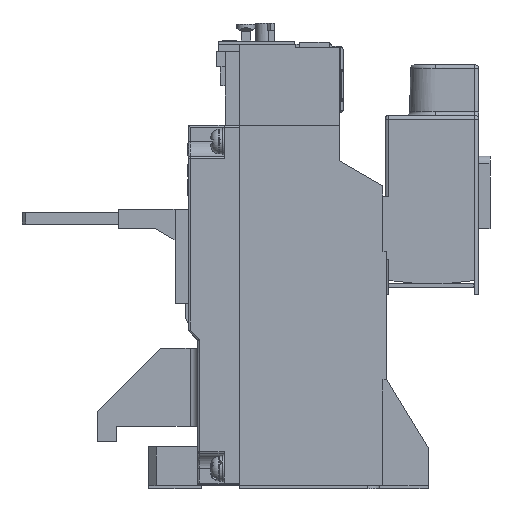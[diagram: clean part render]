
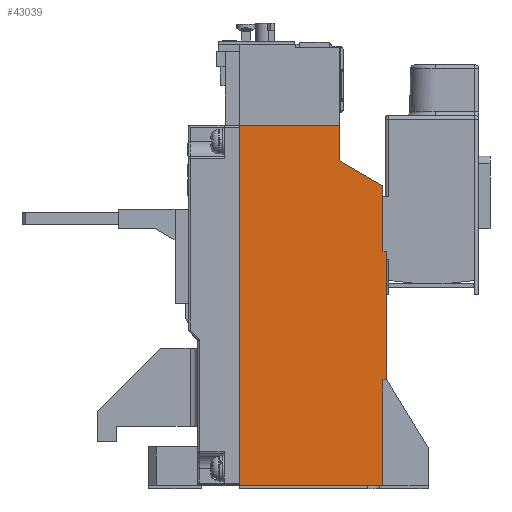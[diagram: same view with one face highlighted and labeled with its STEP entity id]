
A CAD part, left-side view. The second image highlights one B-rep face of the part: STEP entity #43039.
In plain terms, the highlighted planar face has unit normal (-1, 0, 0).
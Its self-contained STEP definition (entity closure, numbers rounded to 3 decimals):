
#33 = CARTESIAN_POINT ( 'NONE',  ( -50., 0., 95.4 ) ) ;
#349 = VERTEX_POINT ( 'NONE', #28911 ) ;
#479 = DIRECTION ( 'NONE',  ( 0., 1., 0. ) ) ;
#529 = ORIENTED_EDGE ( 'NONE', *, *, #33866, .F. ) ;
#712 = LINE ( 'NONE', #19413, #10759 ) ;
#779 = VECTOR ( 'NONE', #479, 1000. ) ;
#1952 = CARTESIAN_POINT ( 'NONE',  ( -50., 0., 0. ) ) ;
#2165 = VERTEX_POINT ( 'NONE', #26593 ) ;
#3185 = VECTOR ( 'NONE', #14248, 1000. ) ;
#4227 = ORIENTED_EDGE ( 'NONE', *, *, #4255, .F. ) ;
#4255 = EDGE_CURVE ( 'NONE', #349, #47403, #712, .T. ) ;
#4495 = VECTOR ( 'NONE', #20856, 1000. ) ;
#5094 = VECTOR ( 'NONE', #30881, 1000. ) ;
#5575 = CARTESIAN_POINT ( 'NONE',  ( -50., 0., 0. ) ) ;
#5768 = DIRECTION ( 'NONE',  ( 0., 0., -1. ) ) ;
#6260 = LINE ( 'NONE', #33, #38828 ) ;
#7230 = EDGE_CURVE ( 'NONE', #47403, #52494, #29789, .T. ) ;
#8126 = ORIENTED_EDGE ( 'NONE', *, *, #40690, .F. ) ;
#8153 = VECTOR ( 'NONE', #40341, 1000. ) ;
#10663 = CARTESIAN_POINT ( 'NONE',  ( -50., -39., 61.9 ) ) ;
#10759 = VECTOR ( 'NONE', #19047, 1000. ) ;
#12086 = ORIENTED_EDGE ( 'NONE', *, *, #36949, .F. ) ;
#12585 = CARTESIAN_POINT ( 'NONE',  ( -50., -26.5, 86. ) ) ;
#14248 = DIRECTION ( 'NONE',  ( 0., -1., 0. ) ) ;
#15762 = EDGE_LOOP ( 'NONE', ( #32772, #28871, #50078, #54292, #529, #8126, #12086, #39289, #48375, #4227 ) ) ;
#16389 = LINE ( 'NONE', #51946, #5094 ) ;
#17145 = VECTOR ( 'NONE', #19040, 1000. ) ;
#17858 = CARTESIAN_POINT ( 'NONE',  ( -50., -38., 28. ) ) ;
#18024 = CARTESIAN_POINT ( 'NONE',  ( -50., -38., 28. ) ) ;
#18980 = CARTESIAN_POINT ( 'NONE',  ( -50., -26.5, 86. ) ) ;
#19040 = DIRECTION ( 'NONE',  ( 0., -0.866, -0.5 ) ) ;
#19047 = DIRECTION ( 'NONE',  ( 0., 0., -1. ) ) ;
#19413 = CARTESIAN_POINT ( 'NONE',  ( -50., -26.5, 95.4 ) ) ;
#19431 = LINE ( 'NONE', #10663, #8153 ) ;
#20077 = VECTOR ( 'NONE', #52098, 1000. ) ;
#20612 = EDGE_CURVE ( 'NONE', #51759, #48678, #49774, .T. ) ;
#20856 = DIRECTION ( 'NONE',  ( 0., 0., 1. ) ) ;
#22188 = CARTESIAN_POINT ( 'NONE',  ( -50., -39., 28. ) ) ;
#23794 = VECTOR ( 'NONE', #43550, 1000. ) ;
#25133 = LINE ( 'NONE', #22188, #23794 ) ;
#25505 = DIRECTION ( 'NONE',  ( 0., -1., 0. ) ) ;
#25955 = CARTESIAN_POINT ( 'NONE',  ( -50., 0., 0. ) ) ;
#26593 = CARTESIAN_POINT ( 'NONE',  ( -50., -38., 61.9 ) ) ;
#28871 = ORIENTED_EDGE ( 'NONE', *, *, #20612, .F. ) ;
#28911 = CARTESIAN_POINT ( 'NONE',  ( -50., -26.5, 95.4 ) ) ;
#29789 = LINE ( 'NONE', #18980, #17145 ) ;
#30756 = EDGE_CURVE ( 'NONE', #42955, #51084, #31372, .T. ) ;
#30881 = DIRECTION ( 'NONE',  ( 0., 0., -1. ) ) ;
#31219 = DIRECTION ( 'NONE',  ( 1., 0., 0. ) ) ;
#31372 = LINE ( 'NONE', #18024, #20077 ) ;
#31755 = FACE_OUTER_BOUND ( 'NONE', #15762, .T. ) ;
#32772 = ORIENTED_EDGE ( 'NONE', *, *, #54414, .F. ) ;
#33866 = EDGE_CURVE ( 'NONE', #54798, #42955, #25133, .T. ) ;
#36614 = CARTESIAN_POINT ( 'NONE',  ( -50., -39., 28. ) ) ;
#36949 = EDGE_CURVE ( 'NONE', #2165, #42286, #48451, .T. ) ;
#37556 = CARTESIAN_POINT ( 'NONE',  ( -50., -39., 61.9 ) ) ;
#38828 = VECTOR ( 'NONE', #25505, 1000. ) ;
#39289 = ORIENTED_EDGE ( 'NONE', *, *, #49153, .F. ) ;
#39585 = PLANE ( 'NONE',  #40539 ) ;
#39695 = CARTESIAN_POINT ( 'NONE',  ( -50., -38., 61.9 ) ) ;
#40207 = CARTESIAN_POINT ( 'NONE',  ( -50., 0., 95.4 ) ) ;
#40341 = DIRECTION ( 'NONE',  ( 0., 0., -1. ) ) ;
#40539 = AXIS2_PLACEMENT_3D ( 'NONE', #5575, #31219, #5768 ) ;
#40690 = EDGE_CURVE ( 'NONE', #42286, #54798, #19431, .T. ) ;
#42286 = VERTEX_POINT ( 'NONE', #37556 ) ;
#42955 = VERTEX_POINT ( 'NONE', #17858 ) ;
#43039 = ADVANCED_FACE ( 'NONE', ( #31755 ), #39585, .F. ) ;
#43362 = LINE ( 'NONE', #25955, #779 ) ;
#43550 = DIRECTION ( 'NONE',  ( 0., 1., 0. ) ) ;
#44453 = CARTESIAN_POINT ( 'NONE',  ( -50., -38., 79.36 ) ) ;
#47403 = VERTEX_POINT ( 'NONE', #12585 ) ;
#48375 = ORIENTED_EDGE ( 'NONE', *, *, #7230, .F. ) ;
#48451 = LINE ( 'NONE', #39695, #3185 ) ;
#48678 = VERTEX_POINT ( 'NONE', #40207 ) ;
#49153 = EDGE_CURVE ( 'NONE', #52494, #2165, #16389, .T. ) ;
#49774 = LINE ( 'NONE', #50630, #4495 ) ;
#50078 = ORIENTED_EDGE ( 'NONE', *, *, #51661, .F. ) ;
#50624 = CARTESIAN_POINT ( 'NONE',  ( -50., -38., 0. ) ) ;
#50630 = CARTESIAN_POINT ( 'NONE',  ( -50., 0., 95.4 ) ) ;
#51084 = VERTEX_POINT ( 'NONE', #50624 ) ;
#51661 = EDGE_CURVE ( 'NONE', #51084, #51759, #43362, .T. ) ;
#51759 = VERTEX_POINT ( 'NONE', #1952 ) ;
#51946 = CARTESIAN_POINT ( 'NONE',  ( -50., -38., 79.36 ) ) ;
#52098 = DIRECTION ( 'NONE',  ( 0., 0., -1. ) ) ;
#52494 = VERTEX_POINT ( 'NONE', #44453 ) ;
#54292 = ORIENTED_EDGE ( 'NONE', *, *, #30756, .F. ) ;
#54414 = EDGE_CURVE ( 'NONE', #48678, #349, #6260, .T. ) ;
#54798 = VERTEX_POINT ( 'NONE', #36614 ) ;
